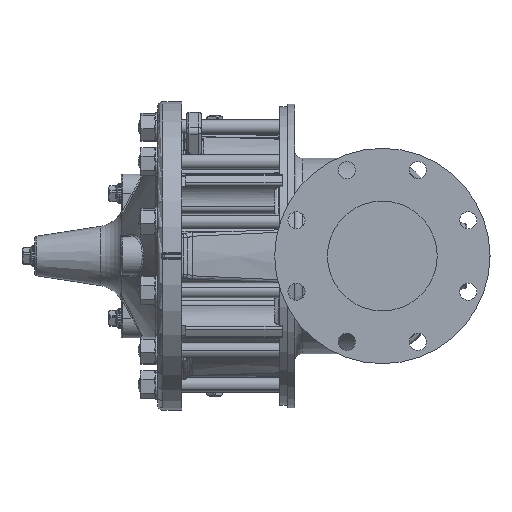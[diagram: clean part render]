
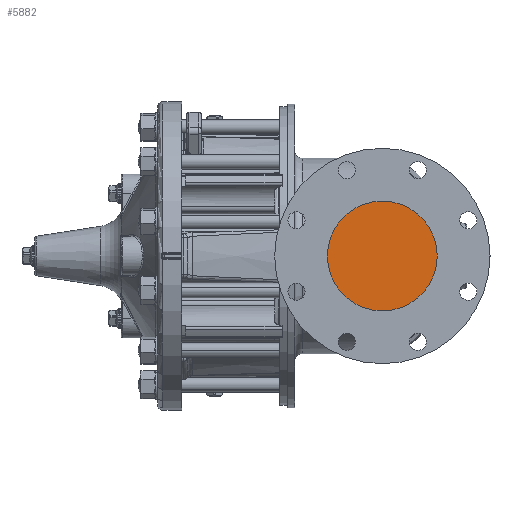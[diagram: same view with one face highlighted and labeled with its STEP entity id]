
A CAD part, left-side view. The second image highlights one B-rep face of the part: STEP entity #5882.
In plain terms, the highlighted planar face has unit normal (-1, 0, 0).
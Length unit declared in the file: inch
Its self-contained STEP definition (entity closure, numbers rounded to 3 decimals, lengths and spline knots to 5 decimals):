
#2504 = VERTEX_POINT ( 'NONE', #14835 ) ;
#2840 = AXIS2_PLACEMENT_3D ( 'NONE', #3981, #29049, #10366 ) ;
#3240 = CARTESIAN_POINT ( 'NONE',  ( -5., -3.15891, 0. ) ) ;
#3331 = ORIENTED_EDGE ( 'NONE', *, *, #8433, .F. ) ;
#3981 = CARTESIAN_POINT ( 'NONE',  ( -5., 0., 0. ) ) ;
#5443 = CARTESIAN_POINT ( 'NONE',  ( -5., 0., 0. ) ) ;
#5882 = ADVANCED_FACE ( 'NONE', ( #25676 ), #20517, .F. ) ;
#8433 = EDGE_CURVE ( 'NONE', #2504, #38560, #37816, .T. ) ;
#8552 = DIRECTION ( 'NONE',  ( 0., 1., 0. ) ) ;
#10366 = DIRECTION ( 'NONE',  ( 0., 1., 0. ) ) ;
#14835 = CARTESIAN_POINT ( 'NONE',  ( -5., 3.15891, 0. ) ) ;
#16229 = ORIENTED_EDGE ( 'NONE', *, *, #26610, .F. ) ;
#16242 = AXIS2_PLACEMENT_3D ( 'NONE', #17294, #39159, #20421 ) ;
#17294 = CARTESIAN_POINT ( 'NONE',  ( -5., 0., 0. ) ) ;
#20421 = DIRECTION ( 'NONE',  ( 0., 1., 0. ) ) ;
#20514 = AXIS2_PLACEMENT_3D ( 'NONE', #5443, #27247, #8552 ) ;
#20517 = PLANE ( 'NONE',  #2840 ) ;
#25676 = FACE_OUTER_BOUND ( 'NONE', #32556, .T. ) ;
#26610 = EDGE_CURVE ( 'NONE', #38560, #2504, #31639, .T. ) ;
#27247 = DIRECTION ( 'NONE',  ( 1., 0., 0. ) ) ;
#29049 = DIRECTION ( 'NONE',  ( 1., 0., 0. ) ) ;
#31639 = CIRCLE ( 'NONE', #20514, 3.15891 ) ;
#32556 = EDGE_LOOP ( 'NONE', ( #3331, #16229 ) ) ;
#37816 = CIRCLE ( 'NONE', #16242, 3.15891 ) ;
#38560 = VERTEX_POINT ( 'NONE', #3240 ) ;
#39159 = DIRECTION ( 'NONE',  ( 1., 0., 0. ) ) ;
